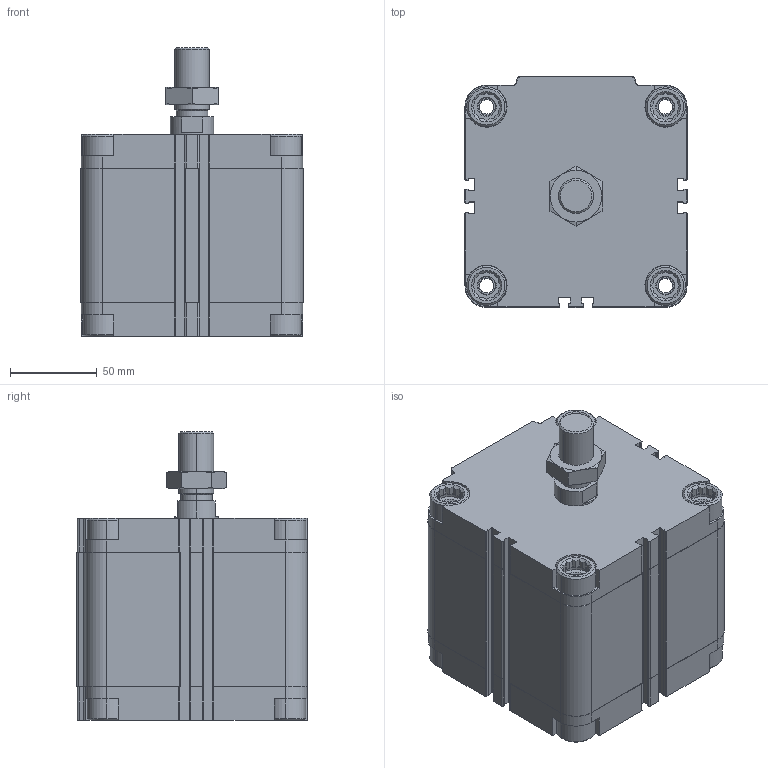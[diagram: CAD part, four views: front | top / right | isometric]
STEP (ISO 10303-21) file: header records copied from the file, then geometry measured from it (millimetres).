
FILE_DESCRIPTION (( 'STEP AP203' ), '1' );
FILE_NAME ('CDVU100-50.STEP', '2020-03-19T11:42:19', ( '' ), ( '' ), 'SwSTEP 2.0', 'SolidWorks 2019', '' );
FILE_SCHEMA (( 'CONFIG_CONTROL_DESIGN' ));
Length unit declared in the file: millimetre
Products named in the file (1): CDVU100-50
Bounding box: 128 x 133 x 166.5 mm (x, y, z)
Volume: 1486232 mm3; surface area: 194759 mm2
Topology: 3 solids, 3 shells, 675 faces, 1816 edges, 1190 vertices
Faces by surface type: plane 397, cylinder 208, cone 70
Entity records: 21767 total; most frequent: CARTESIAN_POINT 4686, ORIENTED_EDGE 3624, DIRECTION 3460, EDGE_CURVE 1812, VERTEX_POINT 1190, AXIS2_PLACEMENT_3D 1176, LINE 1108, VECTOR 1108
